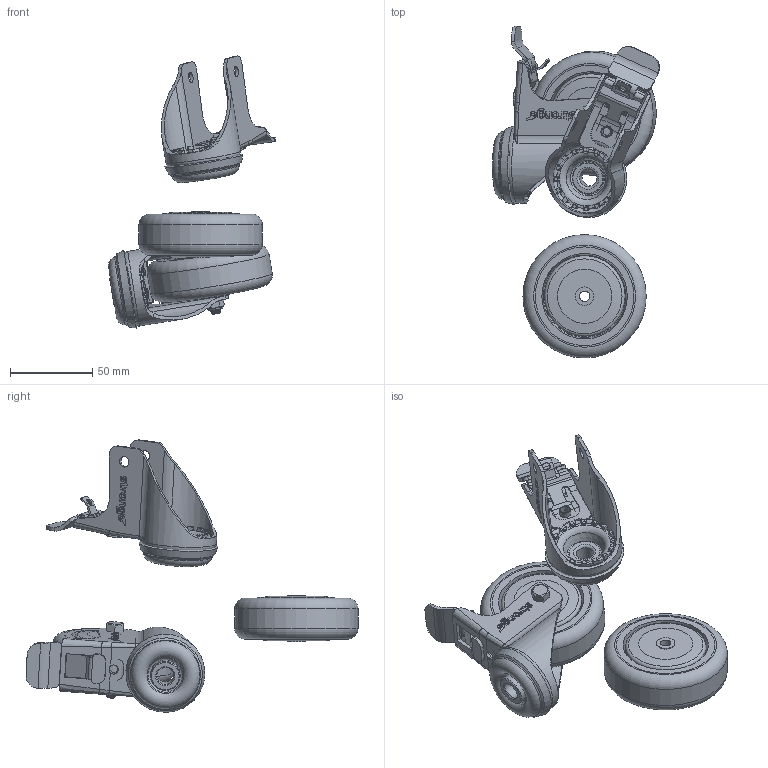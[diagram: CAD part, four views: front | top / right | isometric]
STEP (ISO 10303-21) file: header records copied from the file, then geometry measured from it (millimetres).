
FILE_DESCRIPTION(('STEP AP203'),'1');
FILE_NAME('E:/Pomoc/Strongo/344h39J075rZLC.stp',' ',(' '),(' '),'XStep 1.0',' ',' ');
FILE_SCHEMA(('CONFIG_CONTROL_DESIGN'));
Length unit declared in the file: metre
Products named in the file (3): Assembly97; Assembly214; Assembly185
Bounding box: 101.65 x 201.88 x 165.59 mm (x, y, z)
Volume: 207223.9 mm3; surface area: 162955.2 mm2
Topology: 116 solids, 116 shells, 3078 faces, 8596 edges, 5672 vertices
Faces by surface type: plane 2248, cylinder 447, cone 169, sphere 90, bspline 67, torus 57
Full cylindrical faces by diameter (mm): 2.076 x4, 4.014 x2, 5 x1, 5.6 x2, 6 x15, 6.3 x10, 6.6 x2, 10 x6, 10.5 x2, 11.3 x4, 13.4 x4, 14 x8, 14.2 x2, 18 x2, 18.5 x2, 22.4 x4, 23 x4, 26 x4, 27 x2, 47.4 x4, 49 x4, 60 x4, 75 x2
Entity records: 52949 total; most frequent: CARTESIAN_POINT 14145, ORIENTED_EDGE 8142, DIRECTION 7525, EDGE_CURVE 4071, LINE 3219, VECTOR 3219, VERTEX_POINT 2742, AXIS2_PLACEMENT_3D 2153
